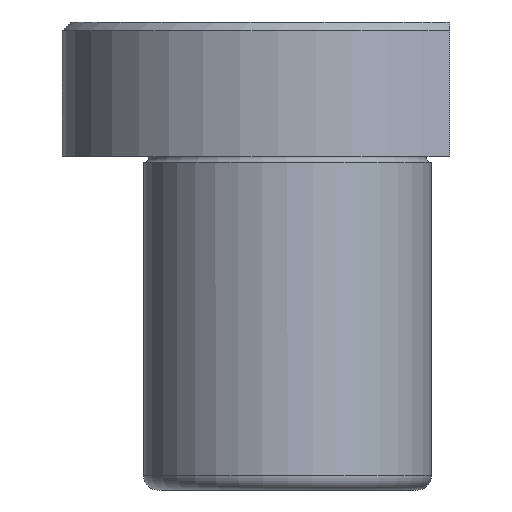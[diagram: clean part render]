
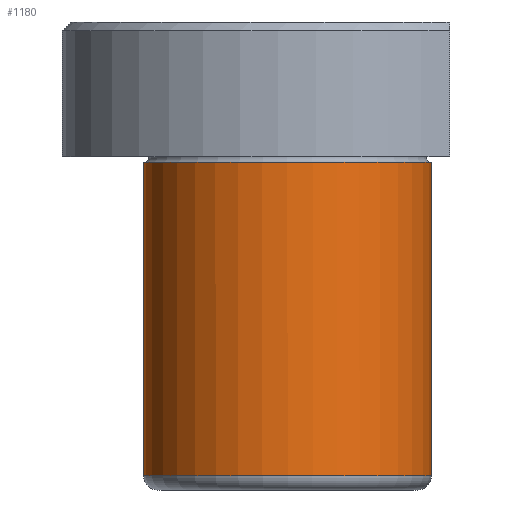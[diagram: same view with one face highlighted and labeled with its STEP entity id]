
A CAD part, front view. The second image highlights one B-rep face of the part: STEP entity #1180.
In plain terms, the highlighted cylindrical face has radius 16 mm (diameter 32 mm), a partial arc.
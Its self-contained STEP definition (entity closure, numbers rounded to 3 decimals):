
#992=CARTESIAN_POINT('Vertex',(16.,0.,-0.6)) ;
#994=CARTESIAN_POINT('Vertex',(-16.,0.,-0.6)) ;
#1019=CARTESIAN_POINT('Axis2P3D Location',(0.,0.,-0.6)) ;
#1126=CARTESIAN_POINT('Line Origine',(-16.,0.,15.)) ;
#1130=CARTESIAN_POINT('Vertex',(-16.,0.,-35.4)) ;
#1133=CARTESIAN_POINT('Line Origine',(16.,0.,15.)) ;
#1137=CARTESIAN_POINT('Vertex',(16.,0.,-35.4)) ;
#1164=CARTESIAN_POINT('Axis2P3D Location',(0.,0.,15.)) ;
#1169=CARTESIAN_POINT('Axis2P3D Location',(0.,0.,-35.4)) ;
#1020=DIRECTION('Axis2P3D Direction',(0.,-0.,1.)) ;
#1127=DIRECTION('Vector Direction',(0.,0.,-1.)) ;
#1134=DIRECTION('Vector Direction',(0.,0.,-1.)) ;
#1165=DIRECTION('Axis2P3D Direction',(0.,0.,-1.)) ;
#1166=DIRECTION('Axis2P3D XDirection',(1.,0.,0.)) ;
#1170=DIRECTION('Axis2P3D Direction',(0.,0.,-1.)) ;
#1021=AXIS2_PLACEMENT_3D('Circle Axis2P3D',#1019,#1020,$) ;
#1167=AXIS2_PLACEMENT_3D('Cylinder Axis2P3D',#1164,#1165,#1166) ;
#1171=AXIS2_PLACEMENT_3D('Circle Axis2P3D',#1169,#1170,$) ;
#1175=ORIENTED_EDGE('',*,*,#1139,.T.) ;
#1176=ORIENTED_EDGE('',*,*,#1023,.F.) ;
#1177=ORIENTED_EDGE('',*,*,#1132,.T.) ;
#1178=ORIENTED_EDGE('',*,*,#1173,.T.) ;
#1128=VECTOR('Line Direction',#1127,1.) ;
#1135=VECTOR('Line Direction',#1134,1.) ;
#1180=ADVANCED_FACE('737-20',(#1179),#1168,.T.) ;
#1022=CIRCLE('generated circle',#1021,16.) ;
#1172=CIRCLE('generated circle',#1171,16.) ;
#1168=CYLINDRICAL_SURFACE('generated cylinder',#1167,16.) ;
#1023=EDGE_CURVE('',#995,#993,#1022,.T.) ;
#1132=EDGE_CURVE('',#995,#1131,#1129,.T.) ;
#1139=EDGE_CURVE('',#1138,#993,#1136,.F.) ;
#1173=EDGE_CURVE('',#1131,#1138,#1172,.F.) ;
#1174=EDGE_LOOP('',(#1175,#1176,#1177,#1178)) ;
#1179=FACE_OUTER_BOUND('',#1174,.T.) ;
#1129=LINE('Line',#1126,#1128) ;
#1136=LINE('Line',#1133,#1135) ;
#993=VERTEX_POINT('',#992) ;
#995=VERTEX_POINT('',#994) ;
#1131=VERTEX_POINT('',#1130) ;
#1138=VERTEX_POINT('',#1137) ;
